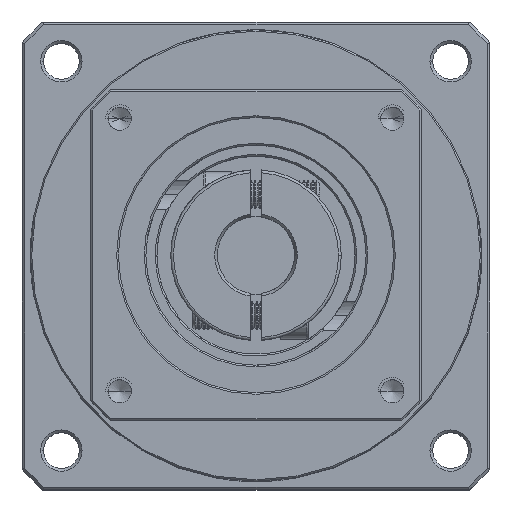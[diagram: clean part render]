
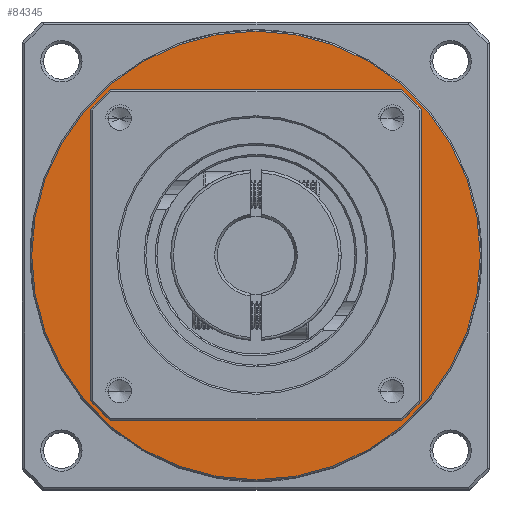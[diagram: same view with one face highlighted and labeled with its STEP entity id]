
A CAD part, top view. The second image highlights one B-rep face of the part: STEP entity #84345.
In plain terms, the highlighted planar face has unit normal (0, 0, 1).
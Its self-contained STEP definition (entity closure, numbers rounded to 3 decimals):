
#1553 = EDGE_LOOP ( 'NONE', ( #53922, #125216 ) ) ;
#1716 = AXIS2_PLACEMENT_3D ( 'NONE', #15288, #67292, #107919 ) ;
#4407 = FACE_OUTER_BOUND ( 'NONE', #1553, .T. ) ;
#6782 = DIRECTION ( 'NONE',  ( 1., 0., 0. ) ) ;
#11397 = CARTESIAN_POINT ( 'NONE',  ( -132.815, 48.311, 1.867 ) ) ;
#15288 = CARTESIAN_POINT ( 'NONE',  ( -92.065, 48.311, 1.867 ) ) ;
#17143 = EDGE_CURVE ( 'NONE', #118322, #41981, #112060, .T. ) ;
#29686 = AXIS2_PLACEMENT_3D ( 'NONE', #111018, #63653, #42384 ) ;
#31533 = FACE_BOUND ( 'NONE', #124098, .T. ) ;
#41492 = CIRCLE ( 'NONE', #29686, 30. ) ;
#41981 = VERTEX_POINT ( 'NONE', #11397 ) ;
#42384 = DIRECTION ( 'NONE',  ( 1., 0., 0. ) ) ;
#52403 = EDGE_CURVE ( 'NONE', #78698, #104374, #120795, .T. ) ;
#53922 = ORIENTED_EDGE ( 'NONE', *, *, #128838, .T. ) ;
#61574 = ORIENTED_EDGE ( 'NONE', *, *, #52403, .F. ) ;
#63653 = DIRECTION ( 'NONE',  ( 0., 0., 1. ) ) ;
#64865 = AXIS2_PLACEMENT_3D ( 'NONE', #125676, #84992, #65851 ) ;
#65851 = DIRECTION ( 'NONE',  ( 1., 0., 0. ) ) ;
#67292 = DIRECTION ( 'NONE',  ( 0., 0., 1. ) ) ;
#68720 = DIRECTION ( 'NONE',  ( 1., 0., 0. ) ) ;
#73452 = EDGE_CURVE ( 'NONE', #104374, #78698, #41492, .T. ) ;
#73671 = AXIS2_PLACEMENT_3D ( 'NONE', #78897, #89696, #68720 ) ;
#78698 = VERTEX_POINT ( 'NONE', #95093 ) ;
#78897 = CARTESIAN_POINT ( 'NONE',  ( -92.065, 48.311, 1.867 ) ) ;
#84345 = ADVANCED_FACE ( 'NONE', ( #31533, #4407 ), #128373, .T. ) ;
#84992 = DIRECTION ( 'NONE',  ( 0., 0., 1. ) ) ;
#89696 = DIRECTION ( 'NONE',  ( 0., 0., 1. ) ) ;
#91489 = ORIENTED_EDGE ( 'NONE', *, *, #73452, .F. ) ;
#95093 = CARTESIAN_POINT ( 'NONE',  ( -62.065, 48.311, 1.867 ) ) ;
#98421 = CARTESIAN_POINT ( 'NONE',  ( -92.065, 48.311, 1.867 ) ) ;
#104374 = VERTEX_POINT ( 'NONE', #105953 ) ;
#105953 = CARTESIAN_POINT ( 'NONE',  ( -122.065, 48.311, 1.867 ) ) ;
#107544 = CARTESIAN_POINT ( 'NONE',  ( -51.315, 48.311, 1.867 ) ) ;
#107919 = DIRECTION ( 'NONE',  ( 1., 0., 0. ) ) ;
#108289 = DIRECTION ( 'NONE',  ( 0., 0., 1. ) ) ;
#111018 = CARTESIAN_POINT ( 'NONE',  ( -92.065, 48.311, 1.867 ) ) ;
#112060 = CIRCLE ( 'NONE', #1716, 40.75 ) ;
#118322 = VERTEX_POINT ( 'NONE', #107544 ) ;
#118942 = AXIS2_PLACEMENT_3D ( 'NONE', #98421, #108289, #6782 ) ;
#120795 = CIRCLE ( 'NONE', #73671, 30. ) ;
#124098 = EDGE_LOOP ( 'NONE', ( #91489, #61574 ) ) ;
#125216 = ORIENTED_EDGE ( 'NONE', *, *, #17143, .T. ) ;
#125676 = CARTESIAN_POINT ( 'NONE',  ( -92.065, 48.311, 1.867 ) ) ;
#128373 = PLANE ( 'NONE',  #118942 ) ;
#128838 = EDGE_CURVE ( 'NONE', #41981, #118322, #131742, .T. ) ;
#131742 = CIRCLE ( 'NONE', #64865, 40.75 ) ;
